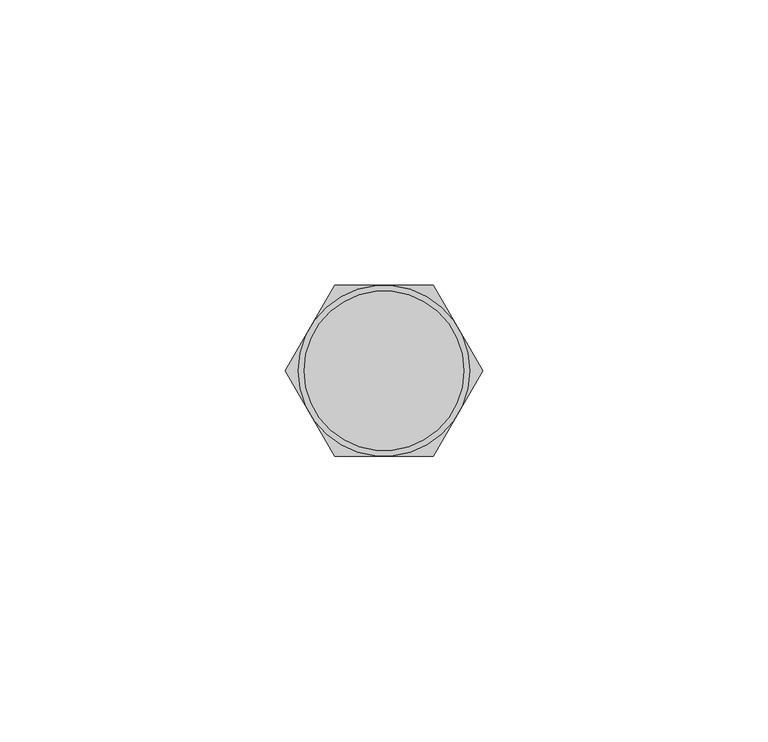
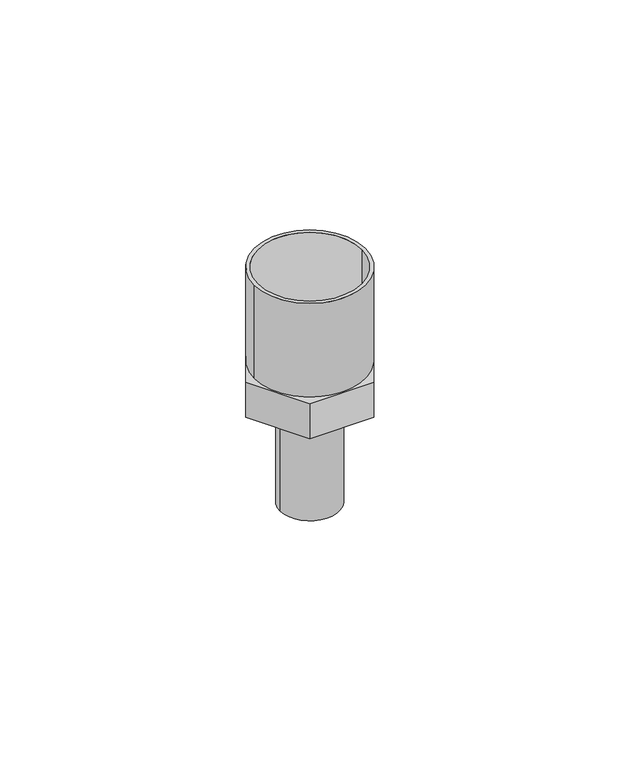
"""IFC4 building model written with IfcOpenShell, lengths in millimetres: proxy geometry, КНС_СоединительESEМолниеприемникМачта_DKC : NG6607_Алюминий."""

from ifc_helpers import new_model, si_unit, point, frame, origin, origin_with_axes, origin_2d, place, context, project, spatial, polyline, circle_curve, trimmed, segment, composite_curve, outline, extrude, source, transform, mapped, element, save


def security_devices_eeaf92e3(model_context):
    return source(origin(), model_context, "Body", "SweptSolid", [
        extrude(outline(composite_curve([segment(trimmed(circle_curve(origin_2d(), 8.0), [point((-8.0, 0.0))], [point((8.0, 0.0))], False, "CARTESIAN"), True, "CONTINUOUS"), segment(trimmed(circle_curve(origin_2d(), 8.0), [point((8.0, 0.0))], [point((-8.0, 0.0))], False, "CARTESIAN"), True, "CONTINUOUS")], self_intersect=False)), frame((0.0, 0.0, -30.0), z_axis=(0.0, 0.0, 1.0), x_axis=(1.0, 0.0, 0.0)), (0.0, 0.0, 1.0), 30.0),
        extrude(outline(polyline([(-17.3205081, 0.0), (-8.660254, 15.0), (8.660254, 15.0), (17.3205081, 0.0), (8.660254, -15.0), (-8.660254, -15.0), (-17.3205081, 0.0)])), origin_with_axes(), (0.0, 0.0, 1.0), 10.0),
        extrude(outline(composite_curve([segment(trimmed(circle_curve(origin_2d(), 15.0), [point((-15.0, 0.0))], [point((15.0, 0.0))], False, "CARTESIAN"), True, "CONTINUOUS"), segment(trimmed(circle_curve(origin_2d(), 15.0), [point((15.0, 0.0))], [point((-15.0, 0.0))], False, "CARTESIAN"), True, "CONTINUOUS")], self_intersect=False), holes=[composite_curve([segment(trimmed(circle_curve(origin_2d(), 14.0), [point((-14.0, 0.0))], [point((14.0, 0.0))], True, "CARTESIAN"), True, "CONTINUOUS"), segment(trimmed(circle_curve(origin_2d(), 14.0), [point((14.0, 0.0))], [point((-14.0, 0.0))], True, "CARTESIAN"), True, "CONTINUOUS")], self_intersect=False)]), frame((0.0, 0.0, 10.0), z_axis=(0.0, 0.0, 1.0), x_axis=(1.0, 0.0, 0.0)), (0.0, 0.0, 1.0), 27.0),
    ])


if __name__ == "__main__":
    model = new_model("IFC4")
    model_context = context("Model", 3, world=origin())
    ifc_project = project(units=[si_unit("LENGTHUNIT", "METRE", prefix="MILLI")], contexts=[model_context])
    site = spatial("IfcSite", under=ifc_project)
    building = spatial("IfcBuilding", under=site)
    placement = place(None, origin())
    security_devices_shape = security_devices_eeaf92e3(model_context)
    element("IfcBuildingElementProxy", 1, Name="КНС_СоединительESEМолниеприемникМачта_DKC : NG6607_Алюминий", ObjectType="КНС_СоединительESEМолниеприемникМачта_DKC : NG6607_Алюминий", at=placement, inside=building, context=model_context, shape_type="MappedRepresentation", body=[
        mapped(security_devices_shape, transform((0.0, 0.0, 0.0), x_axis=(1.0, 0.0, 0.0), y_axis=(0.0, 1.0, 0.0), z_axis=(0.0, 0.0, 1.0))),
    ])
    save(model, "model.ifc")
